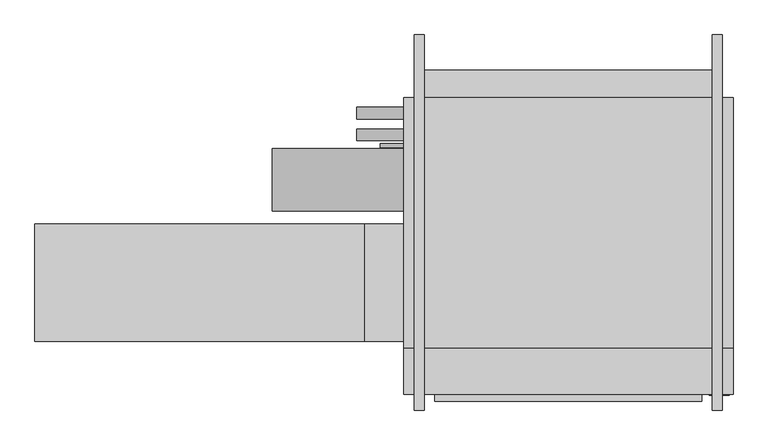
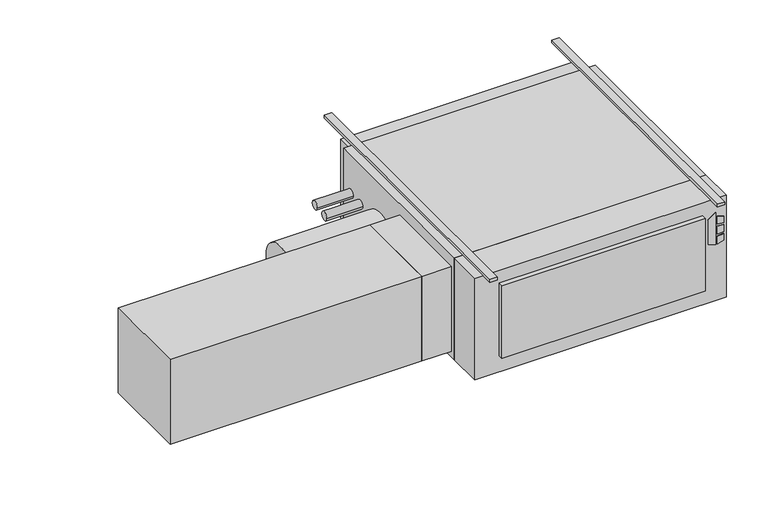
"""IFC4 building model written with IfcOpenShell, lengths in millimetres: proxy geometry."""

from ifc_helpers import new_model, si_unit, point, frame, frame_2d, origin, origin_with_axes, place, context, project, spatial, polyline, circle_curve, trimmed, segment, composite_curve, outline, extrude, source, transform, mapped, element, save


def mechanical_equipment_4392f8a6(model_context):
    return source(origin(), model_context, "Body", "SweptSolid", [
        extrude(outline(polyline([(-193.2519297, 608.0868862), (-203.2, 640.2602728), (-61.0290756, 640.2602728), (-84.0510817, 608.0868862), (-193.2519297, 608.0868862)])), frame((0.0, -797.052, 0.0), z_axis=(0.0, 1.0, 0.0), x_axis=(0.0, 0.0, 1.0)), (0.0, 0.0, 1.0), 3.175),
        extrude(outline(polyline([(-114.2526443, 647.0186058), (-117.4550368, 673.1), (-88.2261958, 673.1), (-80.1617807, 647.0186058), (-114.2526443, 647.0186058)])), frame((0.0, -797.052, 0.0), z_axis=(0.0, 1.0, 0.0), x_axis=(0.0, 0.0, 1.0)), (0.0, 0.0, 1.0), 3.175),
        extrude(outline(polyline([(-166.1161712, 673.1), (-169.7816721, 647.0186058), (-203.2, 647.0186058), (-194.5657628, 673.1), (-166.1161712, 673.1)])), frame((0.0, -797.052, 0.0), z_axis=(0.0, 1.0, 0.0), x_axis=(0.0, 0.0, 1.0)), (0.0, 0.0, 1.0), 3.175),
        extrude(outline(polyline([(-126.8010097, 673.1), (-124.5191834, 647.0186058), (-160.4567319, 647.0186058), (-157.7154669, 673.1), (-126.8010097, 673.1)])), frame((0.0, -797.052, 0.0), z_axis=(0.0, 1.0, 0.0), x_axis=(0.0, 0.0, 1.0)), (0.0, 0.0, 1.0), 3.175),
        extrude(outline(polyline([(685.8, -793.877), (-381.0, -793.877), (-381.0, -644.525), (685.8, -644.525), (685.8, -793.877)])), frame((0.0, 0.0, -457.2), z_axis=(0.0, 0.0, 1.0), x_axis=(1.0, 0.0, 0.0)), (0.0, 0.0, 1.0), 457.2),
        extrude(outline(polyline([(584.2, -816.229), (-279.4, -816.229), (-279.4, -793.877), (584.2, -793.877), (584.2, -816.229)])), frame((0.0, 0.0, -381.0), z_axis=(0.0, 0.0, 1.0), x_axis=(1.0, 0.0, 0.0)), (0.0, 0.0, 1.0), 323.85),
        extrude(outline(polyline([(-1574.8, -622.3), (-1574.8, -241.3), (-508.0, -241.3), (-508.0, -622.3), (-1574.8, -622.3)])), frame((0.0, 0.0, -431.8), z_axis=(0.0, 0.0, 1.0), x_axis=(1.0, 0.0, 0.0)), (0.0, 0.0, 1.0), 381.0),
        extrude(outline(polyline([(-381.0, -241.3), (-381.0, -622.3), (-508.0, -622.3), (-508.0, -241.3), (-381.0, -241.3)])), frame((0.0, 0.0, -431.8), z_axis=(0.0, 0.0, 1.0), x_axis=(1.0, 0.0, 0.0)), (0.0, 0.0, 1.0), 381.0),
        extrude(outline(composite_curve([segment(trimmed(circle_curve(frame_2d((-98.4896516, -228.6360165)), 101.6), [point((-200.0896516, -228.6360165))], [point((3.1103484, -228.6360165))], False, "CARTESIAN"), True, "CONTINUOUS"), segment(trimmed(circle_curve(frame_2d((-98.4896516, -228.6360165)), 101.6), [point((3.1103484, -228.6360165))], [point((-200.0896516, -228.6360165))], False, "CARTESIAN"), True, "CONTINUOUS")], self_intersect=False)), frame((-806.45, 0.0, 0.0), z_axis=(1.0, 0.0, 0.0), x_axis=(0.0, 1.0, 0.0)), (0.0, 0.0, 1.0), 425.45),
        extrude(outline(composite_curve([segment(trimmed(circle_curve(frame_2d((47.625, -177.8)), 19.05), [point((28.575, -177.8))], [point((66.675, -177.8))], False, "CARTESIAN"), True, "CONTINUOUS"), segment(trimmed(circle_curve(frame_2d((47.625, -177.8)), 19.05), [point((66.675, -177.8))], [point((28.575, -177.8))], False, "CARTESIAN"), True, "CONTINUOUS")], self_intersect=False)), frame((-533.4, 0.0, 0.0), z_axis=(1.0, 0.0, 0.0), x_axis=(0.0, 1.0, 0.0)), (0.0, 0.0, 1.0), 152.4),
        extrude(outline(composite_curve([segment(trimmed(circle_curve(frame_2d((117.475, -171.45)), 19.05), [point((98.425, -171.45))], [point((136.525, -171.45))], False, "CARTESIAN"), True, "CONTINUOUS"), segment(trimmed(circle_curve(frame_2d((117.475, -171.45)), 19.05), [point((136.525, -171.45))], [point((98.425, -171.45))], False, "CARTESIAN"), True, "CONTINUOUS")], self_intersect=False)), frame((-533.4, 0.0, 0.0), z_axis=(1.0, 0.0, 0.0), x_axis=(0.0, 1.0, 0.0)), (0.0, 0.0, 1.0), 152.4),
        extrude(outline(composite_curve([segment(trimmed(circle_curve(frame_2d((12.7, -409.575)), 6.35), [point((6.35, -409.575))], [point((19.05, -409.575))], False, "CARTESIAN"), True, "CONTINUOUS"), segment(trimmed(circle_curve(frame_2d((12.7, -409.575)), 6.35), [point((19.05, -409.575))], [point((6.35, -409.575))], False, "CARTESIAN"), True, "CONTINUOUS")], self_intersect=False)), frame((-457.2, 0.0, 0.0), z_axis=(1.0, 0.0, 0.0), x_axis=(0.0, 1.0, 0.0)), (0.0, 0.0, 1.0), 76.2),
        extrude(outline(polyline([(685.8, 168.275), (685.8, -644.525), (-381.0, -644.525), (-381.0, 168.275), (685.8, 168.275)])), frame((0.0, 0.0, -457.2), z_axis=(0.0, 0.0, 1.0), x_axis=(1.0, 0.0, 0.0)), (0.0, 0.0, 1.0), 457.2),
        extrude(outline(polyline([(-342.9, 257.175), (647.7, 257.175), (647.7, 168.275), (-342.9, 168.275), (-342.9, 257.175)])), frame((0.0, 0.0, -381.0), z_axis=(0.0, 0.0, 1.0), x_axis=(1.0, 0.0, 0.0)), (0.0, 0.0, 1.0), 355.6),
        extrude(outline(polyline([(-314.325, 371.475), (-314.325, -844.677), (-346.075, -844.677), (-346.075, 371.475), (-314.325, 371.475)])), origin_with_axes(), (0.0, 0.0, 1.0), 12.7),
        extrude(outline(polyline([(650.875, 371.475), (650.875, -844.677), (619.125, -844.677), (619.125, 371.475), (650.875, 371.475)])), origin_with_axes(), (0.0, 0.0, 1.0), 12.7),
    ])


if __name__ == "__main__":
    model = new_model("IFC4")
    model_context = context("Model", 3, world=origin())
    ifc_project = project(units=[si_unit("LENGTHUNIT", "METRE", prefix="MILLI")], contexts=[model_context])
    site = spatial("IfcSite", under=ifc_project)
    building = spatial("IfcBuilding", under=site)
    placement = place(None, origin())
    mechanical_equipment_shape = mechanical_equipment_4392f8a6(model_context)
    element("IfcBuildingElementProxy", 1, Name="High_Capacity_Horizontal_Cabinet_Fan_Coil_Unit_-_HTY_-_IEC_-_2 Pipe, Elec Heat_WO-Attenuator_LH Side_2022 : Size 14 - 277v/60Hz/1Ph - 8/0 Coil 10.0kW - 8\" AirIn", ObjectType="High_Capacity_Horizontal_Cabinet_Fan_Coil_Unit_-_HTY_-_IEC_-_2 Pipe, Elec Heat_WO-Attenuator_LH Side_2022 : Size 14 - 277v/60Hz/1Ph - 8/0 Coil 10.0kW - 8\" AirIn", at=placement, inside=building, context=model_context, shape_type="MappedRepresentation", body=[
        mapped(mechanical_equipment_shape, transform((0.0, 0.0, 0.0), x_axis=(1.0, 0.0, 0.0), y_axis=(0.0, 1.0, 0.0), z_axis=(0.0, 0.0, 1.0))),
    ])
    save(model, "model.ifc")
